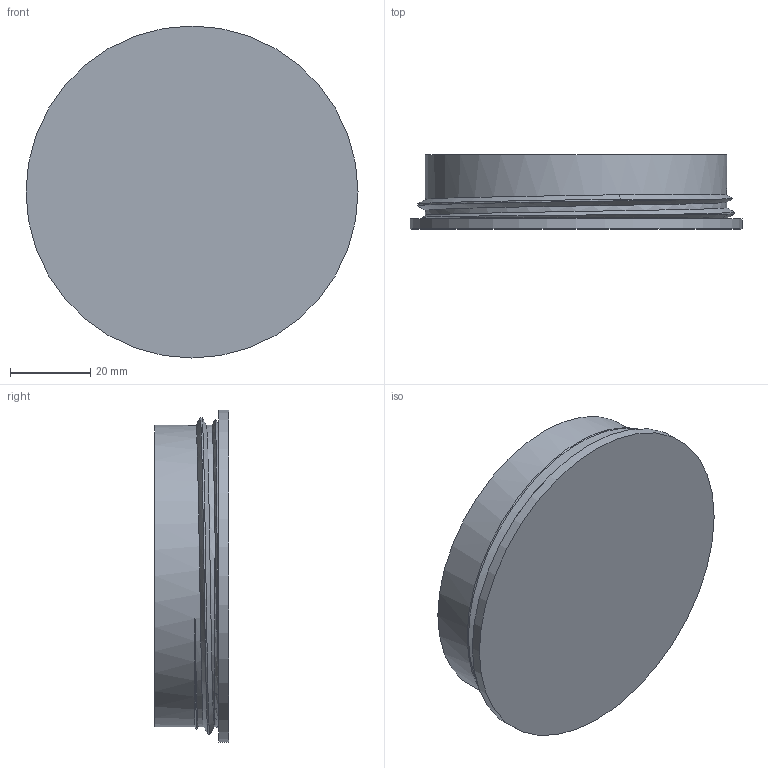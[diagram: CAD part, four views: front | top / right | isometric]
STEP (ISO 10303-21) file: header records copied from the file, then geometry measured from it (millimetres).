
FILE_DESCRIPTION(/* description */ (''),/* implementation_level */ '2;1');
FILE_NAME(/* name */ 'C:\IV2022WorkFolder\Designs\Bob\Oreo\Publish\Filling_Inner_90_short.stp',/* time_stamp */ '2022-12-19T11:04:05-06:00',/* author */ ('dotwibo2'),/* organization */ (''),/* preprocessor_version */ 'ST-DEVELOPER v18.1',/* originating_system */ 'Autodesk Inventor 2022',/* authorisation */ '');
FILE_SCHEMA (('CONFIG_CONTROL_DESIGN'));
Length unit declared in the file: millimetre
Products named in the file (1): Filling_Inner_90_short
Bounding box: 83 x 18.5 x 83 mm (x, y, z)
Volume: 16695.5 mm3; surface area: 19730.5 mm2
Topology: 1 solids, 1 shells, 17 faces, 37 edges, 24 vertices
Faces by surface type: cylinder 7, plane 4, cone 2, bspline 2, torus 2
Full cylindrical faces by diameter (mm): 72 x1, 75.375 x2, 83 x1
Entity records: 1312 total; most frequent: CARTESIAN_POINT 913, ORIENTED_EDGE 74, DIRECTION 70, EDGE_CURVE 37, AXIS2_PLACEMENT_3D 32, VERTEX_POINT 24, EDGE_LOOP 19, FACE_OUTER_BOUND 17
